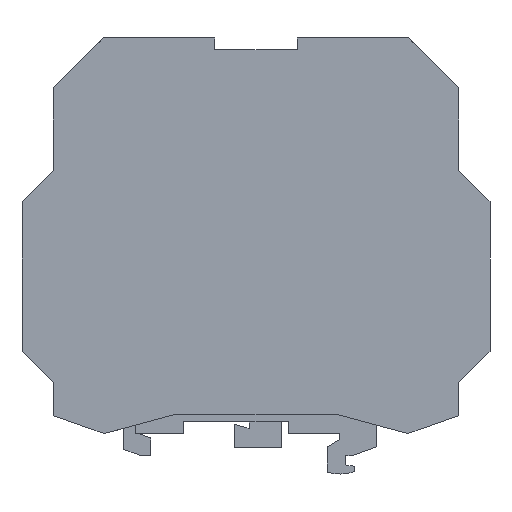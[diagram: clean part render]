
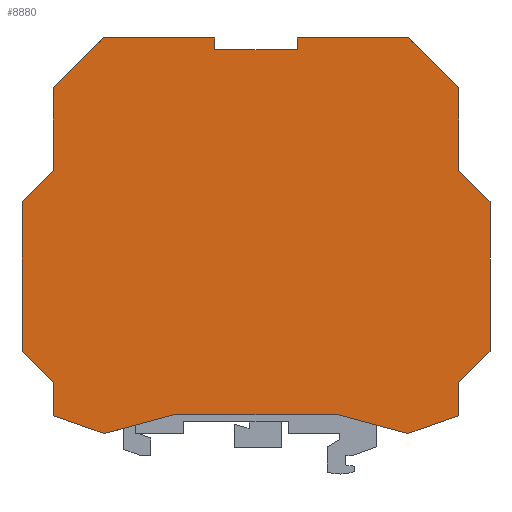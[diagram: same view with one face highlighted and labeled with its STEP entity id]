
A CAD part, left-side view. The second image highlights one B-rep face of the part: STEP entity #8880.
In plain terms, the highlighted planar face has unit normal (-1, 0, 0) as drawn and (0, 0, 1) by its records, which use the part's own axes.
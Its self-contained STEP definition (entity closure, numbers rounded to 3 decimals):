
#7090=CARTESIAN_POINT('',(-283.535,140.393,10.));
#7100=DIRECTION('',(0.,0.,1.));
#7110=DIRECTION('',(1.,0.,0.));
#7120=AXIS2_PLACEMENT_3D('',#7090,#7100,#7110);
#7130=PLANE('',#7120);
#7140=CARTESIAN_POINT('',(-298.476,42.431,10.));
#7150=DIRECTION('',(0.707,0.707,0.));
#7160=VECTOR('',#7150,1.);
#7170=LINE('',#7140,#7160);
#7180=CARTESIAN_POINT('',(-216.088,124.82,10.));
#7190=VERTEX_POINT('',#7180);
#7200=CARTESIAN_POINT('',(-210.638,130.27,10.));
#7210=VERTEX_POINT('',#7200);
#7220=EDGE_CURVE('',#7190,#7210,#7170,.T.);
#7230=ORIENTED_EDGE('',*,*,#7220,.T.);
#7240=CARTESIAN_POINT('',(-216.088,85.837,10.));
#7250=DIRECTION('',(0.,1.,0.));
#7260=VECTOR('',#7250,1.);
#7270=LINE('',#7240,#7260);
#7280=CARTESIAN_POINT('',(-216.088,119.07,10.));
#7290=VERTEX_POINT('',#7280);
#7300=EDGE_CURVE('',#7290,#7190,#7270,.T.);
#7310=ORIENTED_EDGE('',*,*,#7300,.T.);
#7320=CARTESIAN_POINT('',(-298.476,90.159,10.));
#7330=DIRECTION('',(0.944,0.331,0.));
#7340=VECTOR('',#7330,1.);
#7350=LINE('',#7320,#7340);
#7360=CARTESIAN_POINT('',(-224.922,115.97,10.));
#7370=VERTEX_POINT('',#7360);
#7380=EDGE_CURVE('',#7370,#7290,#7350,.T.);
#7390=ORIENTED_EDGE('',*,*,#7380,.T.);
#7400=CARTESIAN_POINT('',(-298.476,135.679,10.));
#7410=DIRECTION('',(0.966,-0.259,0.));
#7420=VECTOR('',#7410,1.);
#7430=LINE('',#7400,#7420);
#7440=CARTESIAN_POINT('',(-237.238,119.27,10.));
#7450=VERTEX_POINT('',#7440);
#7460=EDGE_CURVE('',#7450,#7370,#7430,.T.);
#7470=ORIENTED_EDGE('',*,*,#7460,.T.);
#7480=CARTESIAN_POINT('',(-298.476,119.27,10.));
#7490=DIRECTION('',(1.,0.,0.));
#7500=VECTOR('',#7490,1.);
#7510=LINE('',#7480,#7500);
#7520=CARTESIAN_POINT('',(-265.438,119.27,10.));
#7530=VERTEX_POINT('',#7520);
#7540=EDGE_CURVE('',#7530,#7450,#7510,.T.);
#7550=ORIENTED_EDGE('',*,*,#7540,.T.);
#7560=CARTESIAN_POINT('',(-298.476,110.417,10.));
#7570=DIRECTION('',(0.966,0.259,0.));
#7580=VECTOR('',#7570,1.);
#7590=LINE('',#7560,#7580);
#7600=CARTESIAN_POINT('',(-277.753,115.97,10.));
#7610=VERTEX_POINT('',#7600);
#7620=EDGE_CURVE('',#7610,#7530,#7590,.T.);
#7630=ORIENTED_EDGE('',*,*,#7620,.T.);
#7640=CARTESIAN_POINT('',(-298.476,123.242,10.));
#7650=DIRECTION('',(0.944,-0.331,0.));
#7660=VECTOR('',#7650,1.);
#7670=LINE('',#7640,#7660);
#7680=CARTESIAN_POINT('',(-286.588,119.07,10.));
#7690=VERTEX_POINT('',#7680);
#7700=EDGE_CURVE('',#7690,#7610,#7670,.T.);
#7710=ORIENTED_EDGE('',*,*,#7700,.T.);
#7720=CARTESIAN_POINT('',(-286.588,85.837,10.));
#7730=DIRECTION('',(0.,-1.,0.));
#7740=VECTOR('',#7730,1.);
#7750=LINE('',#7720,#7740);
#7760=CARTESIAN_POINT('',(-286.588,124.82,10.));
#7770=VERTEX_POINT('',#7760);
#7780=EDGE_CURVE('',#7770,#7690,#7750,.T.);
#7790=ORIENTED_EDGE('',*,*,#7780,.T.);
#7800=CARTESIAN_POINT('',(-247.605,85.837,10.));
#7810=DIRECTION('',(0.707,-0.707,0.));
#7820=VECTOR('',#7810,1.);
#7830=LINE('',#7800,#7820);
#7840=CARTESIAN_POINT('',(-292.038,130.27,10.));
#7850=VERTEX_POINT('',#7840);
#7860=EDGE_CURVE('',#7850,#7770,#7830,.T.);
#7870=ORIENTED_EDGE('',*,*,#7860,.T.);
#7880=CARTESIAN_POINT('',(-292.038,85.837,10.));
#7890=DIRECTION('',(0.,-1.,0.));
#7900=VECTOR('',#7890,1.);
#7910=LINE('',#7880,#7900);
#7920=CARTESIAN_POINT('',(-292.038,156.27,10.));
#7930=VERTEX_POINT('',#7920);
#7940=EDGE_CURVE('',#7930,#7850,#7910,.T.);
#7950=ORIENTED_EDGE('',*,*,#7940,.T.);
#7960=CARTESIAN_POINT('',(-362.47,85.837,10.));
#7970=DIRECTION('',(-0.707,-0.707,0.));
#7980=VECTOR('',#7970,1.);
#7990=LINE('',#7960,#7980);
#8000=CARTESIAN_POINT('',(-286.588,161.72,10.));
#8010=VERTEX_POINT('',#8000);
#8020=EDGE_CURVE('',#8010,#7930,#7990,.T.);
#8030=ORIENTED_EDGE('',*,*,#8020,.T.);
#8040=CARTESIAN_POINT('',(-286.588,85.837,10.));
#8050=DIRECTION('',(0.,-1.,0.));
#8060=VECTOR('',#8050,1.);
#8070=LINE('',#8040,#8060);
#8080=CARTESIAN_POINT('',(-286.588,176.12,10.));
#8090=VERTEX_POINT('',#8080);
#8100=EDGE_CURVE('',#8090,#8010,#8070,.T.);
#8110=ORIENTED_EDGE('',*,*,#8100,.T.);
#8120=CARTESIAN_POINT('',(-298.476,164.231,10.));
#8130=DIRECTION('',(-0.707,-0.707,0.));
#8140=VECTOR('',#8130,1.);
#8150=LINE('',#8120,#8140);
#8160=CARTESIAN_POINT('',(-277.938,184.77,10.));
#8170=VERTEX_POINT('',#8160);
#8180=EDGE_CURVE('',#8170,#8090,#8150,.T.);
#8190=ORIENTED_EDGE('',*,*,#8180,.T.);
#8200=CARTESIAN_POINT('',(-298.476,184.77,10.));
#8210=DIRECTION('',(-1.,0.,0.));
#8220=VECTOR('',#8210,1.);
#8230=LINE('',#8200,#8220);
#8240=CARTESIAN_POINT('',(-258.488,184.77,10.));
#8250=VERTEX_POINT('',#8240);
#8260=EDGE_CURVE('',#8250,#8170,#8230,.T.);
#8270=ORIENTED_EDGE('',*,*,#8260,.T.);
#8280=CARTESIAN_POINT('',(-258.488,0.,10.));
#8290=DIRECTION('',(0.,1.,0.));
#8300=VECTOR('',#8290,1.);
#8310=LINE('',#8280,#8300);
#8320=CARTESIAN_POINT('',(-258.488,182.72,10.));
#8330=VERTEX_POINT('',#8320);
#8340=EDGE_CURVE('',#8330,#8250,#8310,.T.);
#8350=ORIENTED_EDGE('',*,*,#8340,.T.);
#8360=CARTESIAN_POINT('',(0.,182.72,10.));
#8370=DIRECTION('',(1.,0.,0.));
#8380=VECTOR('',#8370,1.);
#8390=LINE('',#8360,#8380);
#8400=CARTESIAN_POINT('',(-244.188,182.72,10.));
#8410=VERTEX_POINT('',#8400);
#8420=EDGE_CURVE('',#8330,#8410,#8390,.T.);
#8430=ORIENTED_EDGE('',*,*,#8420,.F.);
#8440=CARTESIAN_POINT('',(-244.188,0.,10.));
#8450=DIRECTION('',(0.,-1.,0.));
#8460=VECTOR('',#8450,1.);
#8470=LINE('',#8440,#8460);
#8480=CARTESIAN_POINT('',(-244.188,184.77,10.));
#8490=VERTEX_POINT('',#8480);
#8500=EDGE_CURVE('',#8490,#8410,#8470,.T.);
#8510=ORIENTED_EDGE('',*,*,#8500,.T.);
#8520=CARTESIAN_POINT('',(-224.738,184.77,10.));
#8530=VERTEX_POINT('',#8520);
#8540=EDGE_CURVE('',#8530,#8490,#8230,.T.);
#8550=ORIENTED_EDGE('',*,*,#8540,.T.);
#8560=CARTESIAN_POINT('',(-298.476,258.508,10.));
#8570=DIRECTION('',(-0.707,0.707,0.));
#8580=VECTOR('',#8570,1.);
#8590=LINE('',#8560,#8580);
#8600=CARTESIAN_POINT('',(-216.088,176.12,10.));
#8610=VERTEX_POINT('',#8600);
#8620=EDGE_CURVE('',#8610,#8530,#8590,.T.);
#8630=ORIENTED_EDGE('',*,*,#8620,.T.);
#8640=CARTESIAN_POINT('',(-216.088,85.837,10.));
#8650=DIRECTION('',(0.,1.,0.));
#8660=VECTOR('',#8650,1.);
#8670=LINE('',#8640,#8660);
#8680=CARTESIAN_POINT('',(-216.088,161.72,10.));
#8690=VERTEX_POINT('',#8680);
#8700=EDGE_CURVE('',#8690,#8610,#8670,.T.);
#8710=ORIENTED_EDGE('',*,*,#8700,.T.);
#8720=CARTESIAN_POINT('',(-140.205,85.837,10.));
#8730=DIRECTION('',(-0.707,0.707,0.));
#8740=VECTOR('',#8730,1.);
#8750=LINE('',#8720,#8740);
#8760=CARTESIAN_POINT('',(-210.638,156.27,10.));
#8770=VERTEX_POINT('',#8760);
#8780=EDGE_CURVE('',#8770,#8690,#8750,.T.);
#8790=ORIENTED_EDGE('',*,*,#8780,.T.);
#8800=CARTESIAN_POINT('',(-210.638,85.837,10.));
#8810=DIRECTION('',(0.,1.,0.));
#8820=VECTOR('',#8810,1.);
#8830=LINE('',#8800,#8820);
#8840=EDGE_CURVE('',#7210,#8770,#8830,.T.);
#8850=ORIENTED_EDGE('',*,*,#8840,.T.);
#8860=EDGE_LOOP('',(#8850,#8790,#8710,#8630,#8550,#8510,#8430,#8350,
#8270,#8190,#8110,#8030,#7950,#7870,#7790,#7710,#7630,#7550,#7470,#7390,
#7310,#7230));
#8870=FACE_OUTER_BOUND('',#8860,.T.);
#8880=ADVANCED_FACE('',(#8870),#7130,.T.);
